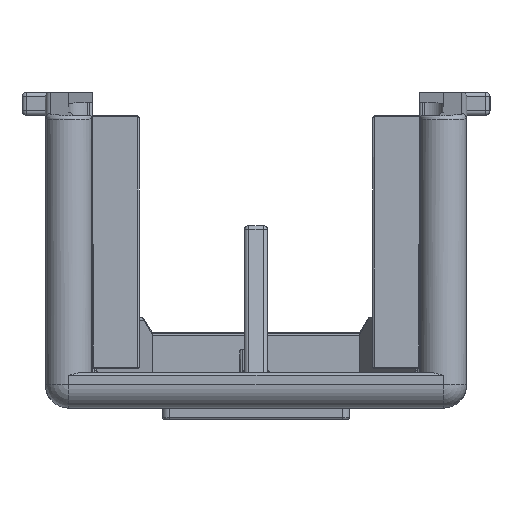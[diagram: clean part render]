
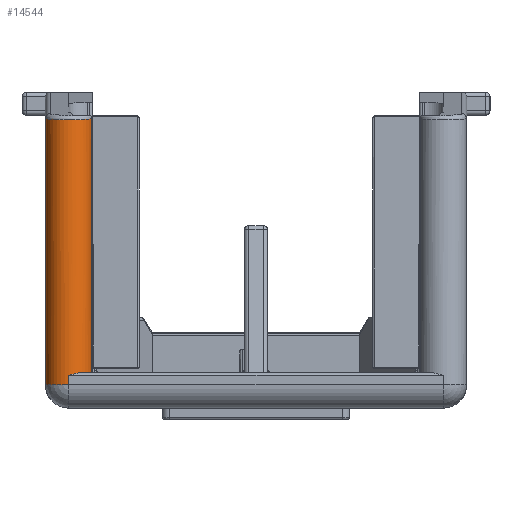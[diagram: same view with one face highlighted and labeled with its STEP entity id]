
A CAD part, left-side view. The second image highlights one B-rep face of the part: STEP entity #14544.
In plain terms, the highlighted cylindrical face has radius 1 mm (diameter 2 mm), a partial arc.
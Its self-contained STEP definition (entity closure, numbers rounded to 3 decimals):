
#8329=CARTESIAN_POINT('Vertex',(-24.75,9.,11.882)) ;
#8382=CARTESIAN_POINT('Vertex',(-24.75,9.,0.5)) ;
#8385=CARTESIAN_POINT('Line Origine',(-24.75,9.,6.191)) ;
#14054=CARTESIAN_POINT('Control Point',(-24.95,7.02,1.)) ;
#14055=CARTESIAN_POINT('Control Point',(-24.95,7.02,0.967)) ;
#14056=CARTESIAN_POINT('Control Point',(-24.95,7.02,0.933)) ;
#14057=CARTESIAN_POINT('Control Point',(-24.95,7.02,0.9)) ;
#14058=CARTESIAN_POINT('Vertex',(-24.95,7.02,0.9)) ;
#14060=CARTESIAN_POINT('Vertex',(-24.95,7.02,1.)) ;
#14087=CARTESIAN_POINT('Vertex',(-24.95,7.02,11.869)) ;
#14091=CARTESIAN_POINT('Control Point',(-24.95,7.02,1.)) ;
#14092=CARTESIAN_POINT('Control Point',(-24.95,7.02,4.623)) ;
#14093=CARTESIAN_POINT('Control Point',(-24.95,7.02,8.246)) ;
#14094=CARTESIAN_POINT('Control Point',(-24.95,7.02,11.869)) ;
#14460=CARTESIAN_POINT('Control Point',(-24.95,7.02,11.869)) ;
#14461=CARTESIAN_POINT('Control Point',(-24.952,7.021,11.869)) ;
#14462=CARTESIAN_POINT('Control Point',(-24.954,7.021,11.868)) ;
#14463=CARTESIAN_POINT('Control Point',(-24.956,7.021,11.868)) ;
#14464=CARTESIAN_POINT('Control Point',(-25.066,7.045,11.861)) ;
#14465=CARTESIAN_POINT('Control Point',(-25.173,7.084,11.854)) ;
#14466=CARTESIAN_POINT('Control Point',(-25.272,7.136,11.847)) ;
#14467=CARTESIAN_POINT('Control Point',(-25.453,7.267,11.835)) ;
#14468=CARTESIAN_POINT('Control Point',(-25.592,7.443,11.826)) ;
#14469=CARTESIAN_POINT('Control Point',(-25.648,7.54,11.823)) ;
#14470=CARTESIAN_POINT('Control Point',(-25.744,7.774,11.816)) ;
#14471=CARTESIAN_POINT('Control Point',(-25.765,8.027,11.815)) ;
#14472=CARTESIAN_POINT('Control Point',(-25.751,8.17,11.816)) ;
#14473=CARTESIAN_POINT('Control Point',(-25.681,8.416,11.82)) ;
#14474=CARTESIAN_POINT('Control Point',(-25.54,8.628,11.83)) ;
#14475=CARTESIAN_POINT('Control Point',(-25.465,8.713,11.835)) ;
#14476=CARTESIAN_POINT('Control Point',(-25.291,8.86,11.846)) ;
#14477=CARTESIAN_POINT('Control Point',(-25.084,8.953,11.86)) ;
#14478=CARTESIAN_POINT('Control Point',(-24.975,8.984,11.867)) ;
#14479=CARTESIAN_POINT('Control Point',(-24.862,9.,11.875)) ;
#14480=CARTESIAN_POINT('Control Point',(-24.75,9.,11.882)) ;
#14491=CARTESIAN_POINT('Axis2P3D Location',(-24.75,8.,6.25)) ;
#14496=CARTESIAN_POINT('Axis2P3D Location',(-24.75,8.,0.5)) ;
#14500=CARTESIAN_POINT('Vertex',(-25.75,8.,0.5)) ;
#14503=CARTESIAN_POINT('Line Origine',(-25.75,8.,6.25)) ;
#14507=CARTESIAN_POINT('Vertex',(-25.75,8.,0.9)) ;
#14511=CARTESIAN_POINT('Control Point',(-25.65,7.564,1.)) ;
#14512=CARTESIAN_POINT('Control Point',(-25.701,7.669,1.)) ;
#14513=CARTESIAN_POINT('Control Point',(-25.734,7.779,0.969)) ;
#14514=CARTESIAN_POINT('Control Point',(-25.75,7.889,0.935)) ;
#14515=CARTESIAN_POINT('Control Point',(-25.75,8.,0.9)) ;
#14516=CARTESIAN_POINT('Vertex',(-25.65,7.564,1.)) ;
#14519=CARTESIAN_POINT('Axis2P3D Location',(-24.75,8.,1.)) ;
#14523=CARTESIAN_POINT('Vertex',(-25.049,7.046,1.)) ;
#14527=CARTESIAN_POINT('Control Point',(-25.049,7.046,1.)) ;
#14528=CARTESIAN_POINT('Control Point',(-25.011,7.034,1.)) ;
#14529=CARTESIAN_POINT('Control Point',(-24.971,7.024,0.98)) ;
#14530=CARTESIAN_POINT('Control Point',(-24.95,7.02,0.94)) ;
#14531=CARTESIAN_POINT('Control Point',(-24.95,7.02,0.9)) ;
#8387=VECTOR('Line Direction',#8386,1.) ;
#14505=VECTOR('Line Direction',#14504,1.) ;
#8386=DIRECTION('Vector Direction',(0.,0.,-1.)) ;
#14492=DIRECTION('Axis2P3D Direction',(0.,0.,-1.)) ;
#14493=DIRECTION('Axis2P3D XDirection',(-1.,0.,0.)) ;
#14497=DIRECTION('Axis2P3D Direction',(0.,0.,-1.)) ;
#14504=DIRECTION('Vector Direction',(0.,0.,-1.)) ;
#14520=DIRECTION('Axis2P3D Direction',(0.,0.,-1.)) ;
#14494=AXIS2_PLACEMENT_3D('Cylinder Axis2P3D',#14491,#14492,#14493) ;
#14498=AXIS2_PLACEMENT_3D('Circle Axis2P3D',#14496,#14497,$) ;
#14521=AXIS2_PLACEMENT_3D('Circle Axis2P3D',#14519,#14520,$) ;
#8388=LINE('Line',#8385,#8387) ;
#14506=LINE('Line',#14503,#14505) ;
#14499=CIRCLE('generated circle',#14498,1.) ;
#14522=CIRCLE('generated circle',#14521,1.) ;
#14495=CYLINDRICAL_SURFACE('generated cylinder',#14494,1.) ;
#8389=EDGE_CURVE('',#8383,#8330,#8388,.F.) ;
#14062=EDGE_CURVE('',#14059,#14061,#14053,.F.) ;
#14095=EDGE_CURVE('',#14061,#14088,#14090,.T.) ;
#14481=EDGE_CURVE('',#8330,#14088,#14459,.F.) ;
#14502=EDGE_CURVE('',#8383,#14501,#14499,.F.) ;
#14509=EDGE_CURVE('',#14501,#14508,#14506,.F.) ;
#14518=EDGE_CURVE('',#14517,#14508,#14510,.T.) ;
#14525=EDGE_CURVE('',#14517,#14524,#14522,.F.) ;
#14532=EDGE_CURVE('',#14059,#14524,#14526,.F.) ;
#14534=ORIENTED_EDGE('',*,*,#8389,.F.) ;
#14535=ORIENTED_EDGE('',*,*,#14502,.T.) ;
#14536=ORIENTED_EDGE('',*,*,#14509,.T.) ;
#14537=ORIENTED_EDGE('',*,*,#14518,.F.) ;
#14538=ORIENTED_EDGE('',*,*,#14525,.T.) ;
#14539=ORIENTED_EDGE('',*,*,#14532,.F.) ;
#14540=ORIENTED_EDGE('',*,*,#14062,.T.) ;
#14541=ORIENTED_EDGE('',*,*,#14095,.T.) ;
#14542=ORIENTED_EDGE('',*,*,#14481,.F.) ;
#14533=EDGE_LOOP('',(#14534,#14535,#14536,#14537,#14538,#14539,#14540,#14541,#14542)) ;
#8330=VERTEX_POINT('',#8329) ;
#8383=VERTEX_POINT('',#8382) ;
#14059=VERTEX_POINT('',#14058) ;
#14061=VERTEX_POINT('',#14060) ;
#14088=VERTEX_POINT('',#14087) ;
#14501=VERTEX_POINT('',#14500) ;
#14508=VERTEX_POINT('',#14507) ;
#14517=VERTEX_POINT('',#14516) ;
#14524=VERTEX_POINT('',#14523) ;
#14544=ADVANCED_FACE('PartBody',(#14543),#14495,.T.) ;
#14053=B_SPLINE_CURVE_WITH_KNOTS('',3,(#14054,#14055,#14056,#14057),.UNSPECIFIED.,.F.,.U.,(4,4),(0.,0.141),.UNSPECIFIED.) ;
#14090=B_SPLINE_CURVE_WITH_KNOTS('',3,(#14091,#14092,#14093,#14094),.UNSPECIFIED.,.F.,.U.,(4,4),(0.,15.371),.UNSPECIFIED.) ;
#14459=B_SPLINE_CURVE_WITH_KNOTS('',5,(#14460,#14461,#14462,#14463,#14464,#14465,#14466,#14467,#14468,#14469,#14470,#14471,#14472,#14473,#14474,#14475,#14476,#14477,#14478,#14479,#14480),.UNSPECIFIED.,.F.,.U.,(6,3,3,3,3,3,6),(0.755,0.767,1.479,2.187,3.084,3.803,4.525),.UNSPECIFIED.) ;
#14510=B_SPLINE_CURVE_WITH_KNOTS('',4,(#14511,#14512,#14513,#14514,#14515),.UNSPECIFIED.,.F.,.U.,(5,5),(0.,0.656),.UNSPECIFIED.) ;
#14526=B_SPLINE_CURVE_WITH_KNOTS('',4,(#14527,#14528,#14529,#14530,#14531),.UNSPECIFIED.,.F.,.U.,(5,5),(0.,0.225),.UNSPECIFIED.) ;
#14543=FACE_OUTER_BOUND('',#14533,.T.) ;
